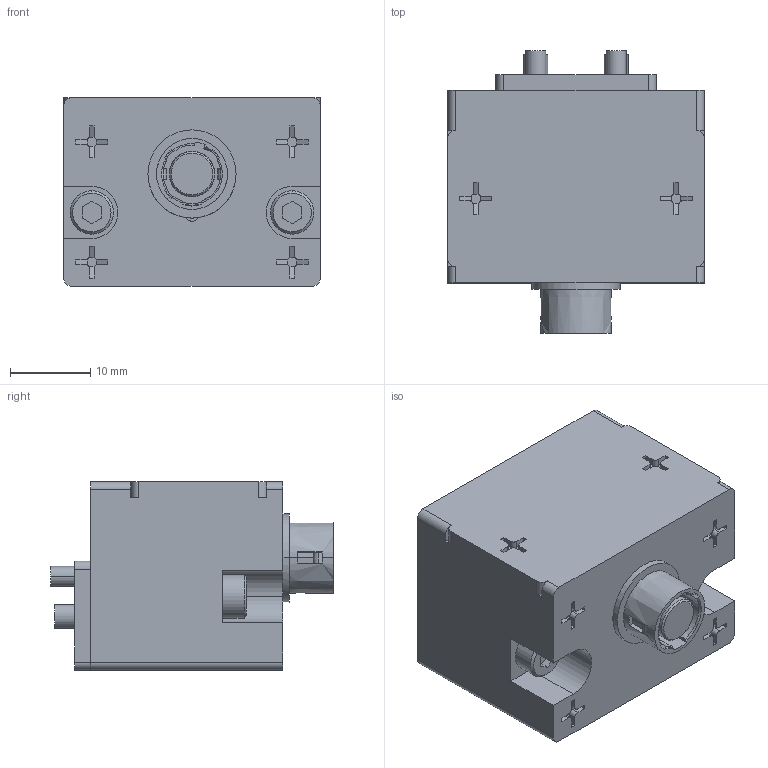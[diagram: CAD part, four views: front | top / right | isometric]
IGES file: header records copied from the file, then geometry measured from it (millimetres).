
Start section: 3D InterOp IGES (v. 2022 1.0.0), Spatial Corp. Copyright (c) 1999-2020.
Global section: file name: KHB-1RS-D14C_ver1.igs; native system: Spatial Corp.; preprocessor: 3D InterOp GENERIC/IGES 3.0; author: Noname; organization: Noname; date: 20260424.082726; units: millimetre
Bounding box: 32 x 35.3 x 23.5 mm (x, y, z)
Surface area: 6841.3 mm2 (no closed solid volume)
Topology: 0 solids, 0 shells, 592 faces, 2950 edges, 2949 vertices
Faces by surface type: extrusion 356, revolution 236
